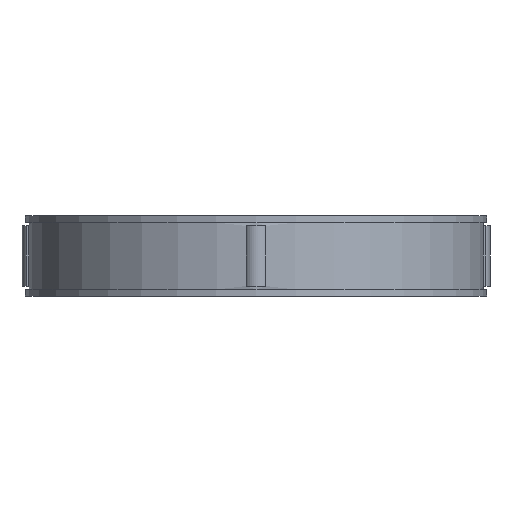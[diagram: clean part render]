
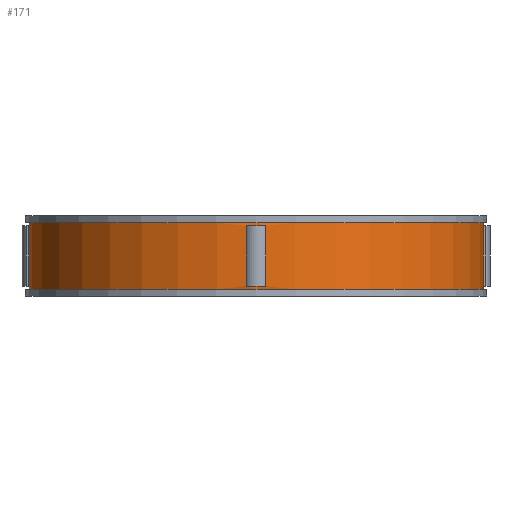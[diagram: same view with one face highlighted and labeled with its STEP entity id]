
A CAD part, front view. The second image highlights one B-rep face of the part: STEP entity #171.
In plain terms, the highlighted cylindrical face has radius 34 mm (diameter 68 mm), a full revolution.
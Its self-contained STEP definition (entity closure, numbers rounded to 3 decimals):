
#171=ADVANCED_FACE('',(#359,#360,#361,#362,#363,#364),#219,.T.);
#219=CYLINDRICAL_SURFACE('',#882,34.);
#231=LINE('',#1207,#295);
#232=LINE('',#1212,#296);
#233=LINE('',#1215,#297);
#234=LINE('',#1220,#298);
#235=LINE('',#1223,#299);
#236=LINE('',#1228,#300);
#237=LINE('',#1234,#301);
#238=LINE('',#1238,#302);
#295=VECTOR('',#966,1.);
#296=VECTOR('',#969,1.);
#297=VECTOR('',#972,1.);
#298=VECTOR('',#975,1.);
#299=VECTOR('',#978,1.);
#300=VECTOR('',#981,1.);
#301=VECTOR('',#986,1.);
#302=VECTOR('',#989,1.);
#359=FACE_BOUND('',#383,.T.);
#360=FACE_BOUND('',#384,.T.);
#361=FACE_BOUND('',#385,.T.);
#362=FACE_BOUND('',#386,.T.);
#363=FACE_BOUND('',#387,.T.);
#364=FACE_BOUND('',#388,.T.);
#383=EDGE_LOOP('',(#447));
#384=EDGE_LOOP('',(#448));
#385=EDGE_LOOP('',(#449,#450,#451,#452));
#386=EDGE_LOOP('',(#453,#454,#455,#456));
#387=EDGE_LOOP('',(#457,#458,#459,#460));
#388=EDGE_LOOP('',(#461,#462,#463,#464));
#447=ORIENTED_EDGE('',*,*,#727,.F.);
#448=ORIENTED_EDGE('',*,*,#728,.T.);
#449=ORIENTED_EDGE('',*,*,#729,.F.);
#450=ORIENTED_EDGE('',*,*,#730,.T.);
#451=ORIENTED_EDGE('',*,*,#731,.F.);
#452=ORIENTED_EDGE('',*,*,#732,.F.);
#453=ORIENTED_EDGE('',*,*,#733,.F.);
#454=ORIENTED_EDGE('',*,*,#734,.T.);
#455=ORIENTED_EDGE('',*,*,#735,.F.);
#456=ORIENTED_EDGE('',*,*,#736,.F.);
#457=ORIENTED_EDGE('',*,*,#737,.F.);
#458=ORIENTED_EDGE('',*,*,#738,.T.);
#459=ORIENTED_EDGE('',*,*,#739,.F.);
#460=ORIENTED_EDGE('',*,*,#740,.F.);
#461=ORIENTED_EDGE('',*,*,#741,.F.);
#462=ORIENTED_EDGE('',*,*,#742,.T.);
#463=ORIENTED_EDGE('',*,*,#743,.T.);
#464=ORIENTED_EDGE('',*,*,#744,.T.);
#655=VERTEX_POINT('',#1204);
#656=VERTEX_POINT('',#1206);
#657=VERTEX_POINT('',#1208);
#658=VERTEX_POINT('',#1209);
#659=VERTEX_POINT('',#1211);
#660=VERTEX_POINT('',#1213);
#661=VERTEX_POINT('',#1216);
#662=VERTEX_POINT('',#1217);
#663=VERTEX_POINT('',#1219);
#664=VERTEX_POINT('',#1221);
#665=VERTEX_POINT('',#1224);
#666=VERTEX_POINT('',#1225);
#667=VERTEX_POINT('',#1227);
#668=VERTEX_POINT('',#1229);
#669=VERTEX_POINT('',#1232);
#670=VERTEX_POINT('',#1233);
#671=VERTEX_POINT('',#1235);
#672=VERTEX_POINT('',#1237);
#727=EDGE_CURVE('',#655,#655,#831,.T.);
#728=EDGE_CURVE('',#656,#656,#832,.T.);
#729=EDGE_CURVE('',#657,#658,#231,.T.);
#730=EDGE_CURVE('',#657,#659,#833,.T.);
#731=EDGE_CURVE('',#660,#659,#232,.T.);
#732=EDGE_CURVE('',#658,#660,#834,.T.);
#733=EDGE_CURVE('',#661,#662,#233,.T.);
#734=EDGE_CURVE('',#661,#663,#835,.T.);
#735=EDGE_CURVE('',#664,#663,#234,.T.);
#736=EDGE_CURVE('',#662,#664,#836,.T.);
#737=EDGE_CURVE('',#665,#666,#235,.T.);
#738=EDGE_CURVE('',#665,#667,#837,.T.);
#739=EDGE_CURVE('',#668,#667,#236,.T.);
#740=EDGE_CURVE('',#666,#668,#838,.T.);
#741=EDGE_CURVE('',#669,#670,#839,.T.);
#742=EDGE_CURVE('',#669,#671,#237,.T.);
#743=EDGE_CURVE('',#671,#672,#840,.T.);
#744=EDGE_CURVE('',#672,#670,#238,.T.);
#831=CIRCLE('',#872,34.);
#832=CIRCLE('',#873,34.);
#833=CIRCLE('',#874,34.);
#834=CIRCLE('',#875,34.);
#835=CIRCLE('',#876,34.);
#836=CIRCLE('',#877,34.);
#837=CIRCLE('',#878,34.);
#838=CIRCLE('',#879,34.);
#839=CIRCLE('',#880,34.);
#840=CIRCLE('',#881,34.);
#872=AXIS2_PLACEMENT_3D('',#1203,#962,#963);
#873=AXIS2_PLACEMENT_3D('',#1205,#964,#965);
#874=AXIS2_PLACEMENT_3D('',#1210,#967,#968);
#875=AXIS2_PLACEMENT_3D('',#1214,#970,#971);
#876=AXIS2_PLACEMENT_3D('',#1218,#973,#974);
#877=AXIS2_PLACEMENT_3D('',#1222,#976,#977);
#878=AXIS2_PLACEMENT_3D('',#1226,#979,#980);
#879=AXIS2_PLACEMENT_3D('',#1230,#982,#983);
#880=AXIS2_PLACEMENT_3D('',#1231,#984,#985);
#881=AXIS2_PLACEMENT_3D('',#1236,#987,#988);
#882=AXIS2_PLACEMENT_3D('',#1239,#990,#991);
#962=DIRECTION('',(0.,0.,1.));
#963=DIRECTION('',(1.,0.,0.));
#964=DIRECTION('',(0.,0.,1.));
#965=DIRECTION('',(1.,0.,0.));
#966=DIRECTION('',(0.,0.,-1.));
#967=DIRECTION('',(0.,0.,1.));
#968=DIRECTION('',(1.,0.,0.));
#969=DIRECTION('',(0.,0.,1.));
#970=DIRECTION('',(0.,0.,1.));
#971=DIRECTION('',(1.,0.,0.));
#972=DIRECTION('',(0.,0.,-1.));
#973=DIRECTION('',(0.,0.,1.));
#974=DIRECTION('',(1.,0.,0.));
#975=DIRECTION('',(0.,0.,1.));
#976=DIRECTION('',(0.,0.,1.));
#977=DIRECTION('',(1.,0.,0.));
#978=DIRECTION('',(0.,0.,-1.));
#979=DIRECTION('',(0.,0.,1.));
#980=DIRECTION('',(1.,0.,0.));
#981=DIRECTION('',(0.,0.,1.));
#982=DIRECTION('',(0.,0.,1.));
#983=DIRECTION('',(1.,0.,0.));
#984=DIRECTION('',(0.,0.,-1.));
#985=DIRECTION('',(-1.,0.,0.));
#986=DIRECTION('',(0.,0.,-1.));
#987=DIRECTION('',(0.,0.,-1.));
#988=DIRECTION('',(-1.,0.,0.));
#989=DIRECTION('',(0.,0.,1.));
#990=DIRECTION('',(0.,0.,-1.));
#991=DIRECTION('',(-1.,0.,0.));
#1203=CARTESIAN_POINT('',(0.,0.,11.));
#1204=CARTESIAN_POINT('',(34.,0.,11.));
#1205=CARTESIAN_POINT('',(0.,0.,1.));
#1206=CARTESIAN_POINT('',(34.,0.,1.));
#1207=CARTESIAN_POINT('',(33.968,-1.471,12.));
#1208=CARTESIAN_POINT('',(33.968,-1.471,10.5));
#1209=CARTESIAN_POINT('',(33.968,-1.471,1.5));
#1210=CARTESIAN_POINT('',(0.,0.,10.5));
#1211=CARTESIAN_POINT('',(33.968,1.471,10.5));
#1212=CARTESIAN_POINT('',(33.968,1.471,12.));
#1213=CARTESIAN_POINT('',(33.968,1.471,1.5));
#1214=CARTESIAN_POINT('',(0.,0.,1.5));
#1215=CARTESIAN_POINT('',(1.471,33.968,12.));
#1216=CARTESIAN_POINT('',(1.471,33.968,10.5));
#1217=CARTESIAN_POINT('',(1.471,33.968,1.5));
#1218=CARTESIAN_POINT('',(0.,0.,10.5));
#1219=CARTESIAN_POINT('',(-1.471,33.968,10.5));
#1220=CARTESIAN_POINT('',(-1.471,33.968,12.));
#1221=CARTESIAN_POINT('',(-1.471,33.968,1.5));
#1222=CARTESIAN_POINT('',(0.,0.,1.5));
#1223=CARTESIAN_POINT('',(-33.968,1.471,12.));
#1224=CARTESIAN_POINT('',(-33.968,1.471,10.5));
#1225=CARTESIAN_POINT('',(-33.968,1.471,1.5));
#1226=CARTESIAN_POINT('',(0.,0.,10.5));
#1227=CARTESIAN_POINT('',(-33.968,-1.471,10.5));
#1228=CARTESIAN_POINT('',(-33.968,-1.471,12.));
#1229=CARTESIAN_POINT('',(-33.968,-1.471,1.5));
#1230=CARTESIAN_POINT('',(0.,0.,1.5));
#1231=CARTESIAN_POINT('',(0.,0.,10.5));
#1232=CARTESIAN_POINT('',(1.471,-33.968,10.5));
#1233=CARTESIAN_POINT('',(-1.471,-33.968,10.5));
#1234=CARTESIAN_POINT('',(1.471,-33.968,12.));
#1235=CARTESIAN_POINT('',(1.471,-33.968,1.5));
#1236=CARTESIAN_POINT('',(0.,0.,1.5));
#1237=CARTESIAN_POINT('',(-1.471,-33.968,1.5));
#1238=CARTESIAN_POINT('',(-1.471,-33.968,12.));
#1239=CARTESIAN_POINT('',(0.,0.,12.));
